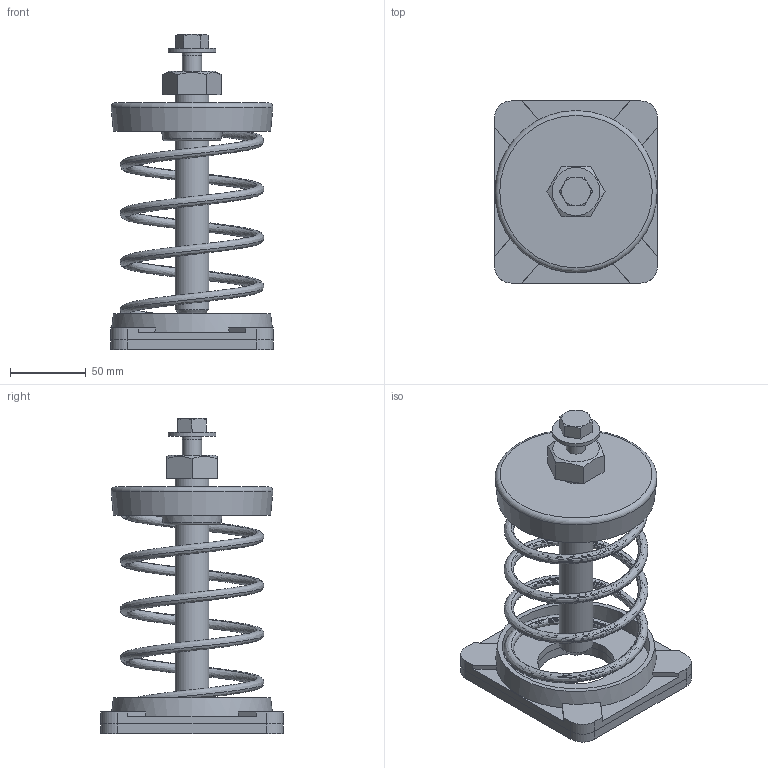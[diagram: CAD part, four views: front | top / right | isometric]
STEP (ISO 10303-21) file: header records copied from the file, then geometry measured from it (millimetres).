
FILE_DESCRIPTION(/* description */ (''),/* implementation_level */ '2;1');
FILE_NAME(/* name */ 'C:\001_Work\Designs\SLF ASSEMBLIES\SLF-101.stp',/* time_stamp */ '2016-01-10T14:28:11-05:00',/* author */ ('rramoutar'),/* organization */ ('Mason Industries Inc.'),/* preprocessor_version */ 'ST-DEVELOPER v15.6',/* originating_system */ 'Autodesk Inventor 2015',/* authorisation */ '');
FILE_SCHEMA (('CONFIG_CONTROL_DESIGN'));
Length unit declared in the file: inch
Products named in the file (1): SLF-101
Bounding box: 107.95 x 120.65 x 208.64 mm (x, y, z)
Volume: 321307.5 mm3; surface area: 152849.2 mm2
Topology: 7 solids, 7 shells, 232 faces, 587 edges, 388 vertices
Faces by surface type: plane 156, bspline 30, cylinder 29, cone 14, torus 3
Full cylindrical faces by diameter (mm): 9.525 x8, 12.7 x2, 13.487 x1, 19.05 x1, 22.225 x2, 31.75 x1, 50.8 x2, 97.631 x2
Entity records: 14164 total; most frequent: CARTESIAN_POINT 8654, ORIENTED_EDGE 1088, DIRECTION 951, EDGE_CURVE 544, VERTEX_POINT 375, LINE 363, VECTOR 363, EDGE_LOOP 299
